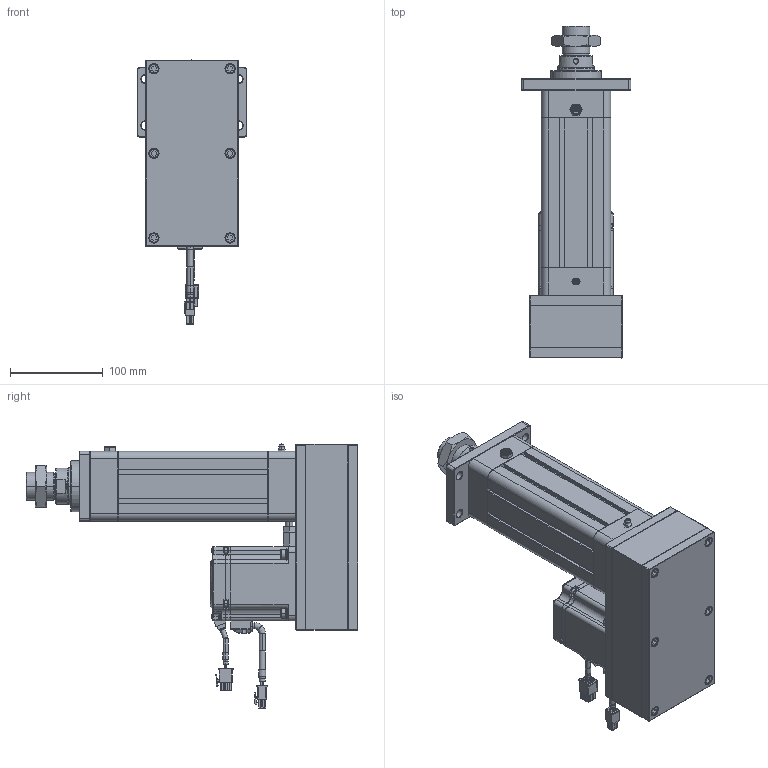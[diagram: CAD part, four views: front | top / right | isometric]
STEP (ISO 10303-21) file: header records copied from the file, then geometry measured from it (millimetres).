
FILE_DESCRIPTION((''),'2;1');
FILE_NAME('ASM0001_ASM','2020-04-15T',('ASUS20200'),(''),'CREO PARAMETRIC BY PTC INC, 2014190','CREO PARAMETRIC BY PTC INC, 2014190','');
FILE_SCHEMA(('CONFIG_CONTROL_DESIGN'));
Length unit declared in the file: millimetre
Products named in the file (31): HE63-D-P-001-X1; HE63-D-P-002-X1; HE63-D-P-003-X1; LGLM-M8-22; SLM-01; YZ-M6X1; JDB405030; HE63-P-010-X1-80N; _MHMF082L1A2; _CABLE_MOTOR_BOTTOM_05; _CABLE_MOTOR_TOP_05; _MOTOR_CONNECTOR_2; _CABLE_BRAKE_BOTTOM_05; _CABLE_BRAKE_TOP_05; _MHMF_CONNECTOR_9_PIN_A6; MHMF082L1A2M2_1_ASM; JX6X6X25; HE63-P-012-X1; HE63-P-013-X1; M6X60; JM-M8; LM-M8-15; LM-M8X1-25; HE63-D-P-005-X1; HE63-D-P-004-X1; HE63-D-P-008-X1; TD-6; M6X25; F-SE63FA; M8X16; ASM0001_ASM
Assembly tree (51 placements, depth 3):
  ASM0001_ASM
    HE63-D-P-001-X1
    HE63-D-P-002-X1
    HE63-D-P-003-X1
    LGLM-M8-22  x8
    SLM-01
    YZ-M6X1
    JDB405030
    HE63-P-010-X1-80N
    MHMF082L1A2M2_1_ASM
      _MHMF082L1A2
      _CABLE_MOTOR_BOTTOM_05
      _CABLE_MOTOR_TOP_05
      _MOTOR_CONNECTOR_2
      _CABLE_BRAKE_BOTTOM_05
      _CABLE_BRAKE_TOP_05
      _MHMF_CONNECTOR_9_PIN_A6
    JX6X6X25
    HE63-P-012-X1
    HE63-P-013-X1
    M6X60  x6
    JM-M8
    LM-M8-15
    LM-M8X1-25
    HE63-D-P-005-X1
    HE63-D-P-004-X1
    HE63-D-P-008-X1
    TD-6  x4
    M6X25  x4
    F-SE63FA
    M8X16  x4
Bounding box: 118 x 357 x 284.15 mm (x, y, z)
Volume: 1990961.7 mm3; surface area: 531643.8 mm2
Topology: 50 solids, 80 shells, 2791 faces, 6723 edges, 4184 vertices
Faces by surface type: plane 1199, cylinder 788, cone 609, torus 150, sphere 42, bspline 3
Entity records: 68787 total; most frequent: CARTESIAN_POINT 13044, DIRECTION 12235, ORIENTED_EDGE 10914, EDGE_CURVE 5511, AXIS2_PLACEMENT_3D 4572, VERTEX_POINT 3453, VECTOR 3091, LINE 3091
